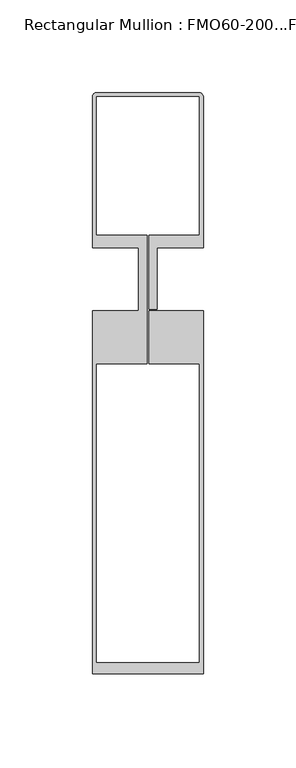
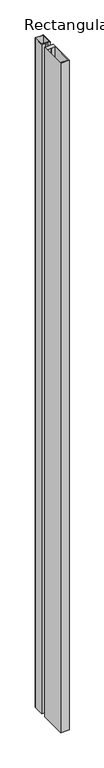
"""IFC4 building model written with IfcOpenShell, lengths in millimetres: member geometry, Rectangular Mullion : FMO60-200...FM60-81."""

from ifc_helpers import new_model, si_unit, point, frame, frame_2d, origin, place, context, project, spatial, polyline, circle_curve, trimmed, segment, composite_curve, outline, extrude, source, transform, mapped, element, save


def rectangular_mullion_fmo60_200_fm60_81_2de17ba8(model_context):
    return source(origin(), model_context, "Body", "SweptSolid", [
        extrude(outline(composite_curve([segment(polyline([(-27.6, 100.8477977), (27.6, 100.8477977)]), True, "CONTINUOUS"), segment(trimmed(circle_curve(frame_2d((27.6, 98.4477977)), 2.4), [point((27.6, 100.8477977))], [point((30.0, 98.4477977))], False, "CARTESIAN"), True, "CONTINUOUS"), segment(polyline([(30.0, 98.4477977), (30.0, 17.0), (5.0, 17.0), (5.0, -16.2), (0.5, -16.2), (0.5, 23.8476589), (28.0000412, 23.8476589), (28.0000412, 98.8477977), (-28.0000412, 98.8477977), (-28.0000412, 23.8476589), (-0.5, 23.8476589), (-0.5, -45.5034642), (-28.0, -45.5034642), (-28.0, -207.009342), (28.0, -207.009342), (28.0, -45.5034642), (0.5, -45.5034642), (0.5, -17.0), (30.0, -17.0), (30.0, -213.009342), (-30.0, -213.009342), (-30.0, -17.0), (-5.0, -17.0), (-5.0, 17.0), (-30.0, 17.0), (-30.0, 98.4477977)]), True, "CONTINUOUS"), segment(trimmed(circle_curve(frame_2d((-27.6, 98.4477977)), 2.4), [point((-30.0, 98.4477977))], [point((-27.6, 100.8477977))], False, "CARTESIAN"), True, "CONTINUOUS")], self_intersect=False)), frame((0.0, 0.0, -5000.0), z_axis=(0.0, 0.0, 1.0), x_axis=(1.0, 0.0, 0.0)), (0.0, 0.0, 1.0), 5000.0),
    ])


if __name__ == "__main__":
    model = new_model("IFC4")
    model_context = context("Model", 3, world=origin())
    ifc_project = project(units=[si_unit("LENGTHUNIT", "METRE", prefix="MILLI")], contexts=[model_context])
    site = spatial("IfcSite", under=ifc_project)
    building = spatial("IfcBuilding", under=site)
    placement = place(None, origin())
    rectangular_mullion_fmo60_200_fm60_81_shape = rectangular_mullion_fmo60_200_fm60_81_2de17ba8(model_context)
    element("IfcMember", 1, ObjectType="Rectangular Mullion : FMO60-200...FM60-81", at=placement, inside=building, context=model_context, shape_type="MappedRepresentation", body=[
        mapped(rectangular_mullion_fmo60_200_fm60_81_shape, transform((0.0, 0.0, 0.0), x_axis=(1.0, 0.0, 0.0), y_axis=(0.0, 1.0, 0.0), z_axis=(0.0, 0.0, 1.0))),
    ])
    save(model, "model.ifc")
